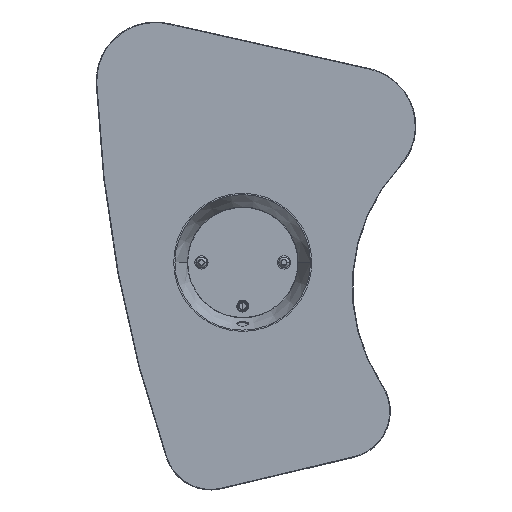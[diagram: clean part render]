
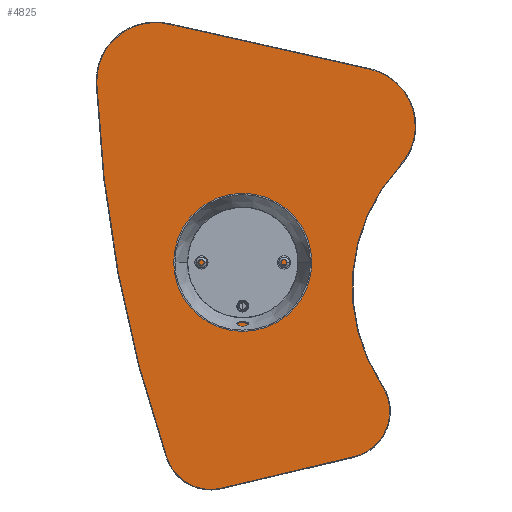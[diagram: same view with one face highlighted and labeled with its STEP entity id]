
A CAD part, top view. The second image highlights one B-rep face of the part: STEP entity #4825.
In plain terms, the highlighted planar face has unit normal (0, 0, 1).
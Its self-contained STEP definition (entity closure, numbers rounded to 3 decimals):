
#46 = EDGE_CURVE ( 'NONE', #8697, #3540, #2439, .T. ) ;
#70 = CARTESIAN_POINT ( 'NONE',  ( 132.001, 242.013, -55.476 ) ) ;
#130 = EDGE_CURVE ( 'NONE', #9373, #8697, #8022, .T. ) ;
#265 = CARTESIAN_POINT ( 'NONE',  ( -49.588, 281.478, -55.476 ) ) ;
#431 = CARTESIAN_POINT ( 'NONE',  ( -49.588, 231.978, -55.476 ) ) ;
#469 = ORIENTED_EDGE ( 'NONE', *, *, #130, .T. ) ;
#561 = CARTESIAN_POINT ( 'NONE',  ( 6.821, -112.826, -55.476 ) ) ;
#624 = PLANE ( 'NONE',  #2869 ) ;
#705 = DIRECTION ( 'NONE',  ( 0., 0., -1. ) ) ;
#761 = EDGE_CURVE ( 'NONE', #10043, #5699, #3798, .T. ) ;
#790 = DIRECTION ( 'NONE',  ( 0., 0., -1. ) ) ;
#793 = ORIENTED_EDGE ( 'NONE', *, *, #2233, .T. ) ;
#883 = CARTESIAN_POINT ( 'NONE',  ( 118.706, -86.24, -55.476 ) ) ;
#885 = DIRECTION ( 'NONE',  ( 0., 1., 0. ) ) ;
#1044 = CIRCLE ( 'NONE', #11430, 150.5 ) ;
#1132 = DIRECTION ( 'NONE',  ( 0.973, 0.231, 0. ) ) ;
#1208 = AXIS2_PLACEMENT_3D ( 'NONE', #1824, #5373, #1619 ) ;
#1503 = DIRECTION ( 'NONE',  ( 0., 1., 0. ) ) ;
#1619 = DIRECTION ( 'NONE',  ( 0., 1., 0. ) ) ;
#1691 = VERTEX_POINT ( 'NONE', #883 ) ;
#1824 = CARTESIAN_POINT ( 'NONE',  ( 16.304, 119.714, -55.476 ) ) ;
#2232 = AXIS2_PLACEMENT_3D ( 'NONE', #8710, #790, #10568 ) ;
#2233 = EDGE_CURVE ( 'NONE', #11440, #4985, #8564, .T. ) ;
#2439 = CIRCLE ( 'NONE', #5419, 49.5 ) ;
#2445 = DIRECTION ( 'NONE',  ( 0., 0., 1. ) ) ;
#2448 = CARTESIAN_POINT ( 'NONE',  ( 142.443, -25.904, -55.476 ) ) ;
#2631 = DIRECTION ( 'NONE',  ( 0., 0., 1. ) ) ;
#2692 = DIRECTION ( 'NONE',  ( 0., 1., 0. ) ) ;
#2730 = CIRCLE ( 'NONE', #3117, 49.5 ) ;
#2869 = AXIS2_PLACEMENT_3D ( 'NONE', #8536, #9465, #1503 ) ;
#2945 = LINE ( 'NONE', #9104, #4167 ) ;
#3059 = AXIS2_PLACEMENT_3D ( 'NONE', #3320, #2631, #2692 ) ;
#3117 = AXIS2_PLACEMENT_3D ( 'NONE', #10266, #7457, #7523 ) ;
#3181 = DIRECTION ( 'NONE',  ( 0., 0., 1. ) ) ;
#3233 = CARTESIAN_POINT ( 'NONE',  ( 132.001, 242.013, -55.476 ) ) ;
#3320 = CARTESIAN_POINT ( 'NONE',  ( -2.311, -74.396, -55.476 ) ) ;
#3324 = DIRECTION ( 'NONE',  ( 0., 1., 0. ) ) ;
#3387 = LINE ( 'NONE', #70, #4084 ) ;
#3445 = CARTESIAN_POINT ( 'NONE',  ( -49.588, 231.978, -55.476 ) ) ;
#3540 = VERTEX_POINT ( 'NONE', #5611 ) ;
#3564 = AXIS2_PLACEMENT_3D ( 'NONE', #7640, #3181, #9294 ) ;
#3798 = CIRCLE ( 'NONE', #3059, 39.5 ) ;
#3920 = DIRECTION ( 'NONE',  ( 0., 1., 0. ) ) ;
#4084 = VECTOR ( 'NONE', #7798, 1000. ) ;
#4167 = VECTOR ( 'NONE', #1132, 1000. ) ;
#4825 = ADVANCED_FACE ( 'NONE', ( #10451, #7540 ), #624, .F. ) ;
#4937 = EDGE_CURVE ( 'NONE', #4985, #11440, #7294, .T. ) ;
#4985 = VERTEX_POINT ( 'NONE', #9163 ) ;
#5026 = EDGE_CURVE ( 'NONE', #3540, #10043, #6771, .T. ) ;
#5291 = ORIENTED_EDGE ( 'NONE', *, *, #5026, .T. ) ;
#5373 = DIRECTION ( 'NONE',  ( 0., 0., -1. ) ) ;
#5419 = AXIS2_PLACEMENT_3D ( 'NONE', #431, #2445, #3324 ) ;
#5429 = CARTESIAN_POINT ( 'NONE',  ( -39.704, -87.123, -55.476 ) ) ;
#5611 = CARTESIAN_POINT ( 'NONE',  ( -99.044, 229.898, -55.476 ) ) ;
#5699 = VERTEX_POINT ( 'NONE', #561 ) ;
#6062 = CARTESIAN_POINT ( 'NONE',  ( 267.679, 57.56, -55.476 ) ) ;
#6310 = CARTESIAN_POINT ( 'NONE',  ( 157.436, 160.014, -55.476 ) ) ;
#6527 = CARTESIAN_POINT ( 'NONE',  ( 1031.457, 277.441, -55.476 ) ) ;
#6573 = EDGE_CURVE ( 'NONE', #7748, #9373, #3387, .T. ) ;
#6771 = CIRCLE ( 'NONE', #10852, 1131.5 ) ;
#7083 = CIRCLE ( 'NONE', #3564, 39.5 ) ;
#7204 = EDGE_CURVE ( 'NONE', #1691, #10922, #7083, .T. ) ;
#7281 = ORIENTED_EDGE ( 'NONE', *, *, #8066, .T. ) ;
#7294 = CIRCLE ( 'NONE', #1208, 2.5 ) ;
#7457 = DIRECTION ( 'NONE',  ( 0., 0., 1. ) ) ;
#7523 = DIRECTION ( 'NONE',  ( 0., 1., 0. ) ) ;
#7540 = FACE_BOUND ( 'NONE', #9778, .T. ) ;
#7640 = CARTESIAN_POINT ( 'NONE',  ( 109.574, -47.81, -55.476 ) ) ;
#7748 = VERTEX_POINT ( 'NONE', #3233 ) ;
#7798 = DIRECTION ( 'NONE',  ( -0.976, 0.219, 0. ) ) ;
#7823 = ORIENTED_EDGE ( 'NONE', *, *, #9288, .T. ) ;
#7881 = ORIENTED_EDGE ( 'NONE', *, *, #46, .T. ) ;
#8022 = CIRCLE ( 'NONE', #10445, 49.5 ) ;
#8066 = EDGE_CURVE ( 'NONE', #5699, #1691, #2945, .T. ) ;
#8090 = DIRECTION ( 'NONE',  ( 0., 0., 1. ) ) ;
#8186 = ORIENTED_EDGE ( 'NONE', *, *, #761, .T. ) ;
#8392 = CARTESIAN_POINT ( 'NONE',  ( 16.304, 122.214, -55.476 ) ) ;
#8536 = CARTESIAN_POINT ( 'NONE',  ( 121.177, 193.711, -55.476 ) ) ;
#8564 = CIRCLE ( 'NONE', #2232, 2.5 ) ;
#8671 = VERTEX_POINT ( 'NONE', #6310 ) ;
#8697 = VERTEX_POINT ( 'NONE', #265 ) ;
#8710 = CARTESIAN_POINT ( 'NONE',  ( 16.304, 119.714, -55.476 ) ) ;
#8738 = DIRECTION ( 'NONE',  ( 0., 1., 0. ) ) ;
#9104 = CARTESIAN_POINT ( 'NONE',  ( 184.011, -70.723, -55.476 ) ) ;
#9163 = CARTESIAN_POINT ( 'NONE',  ( 16.304, 117.214, -55.476 ) ) ;
#9288 = EDGE_CURVE ( 'NONE', #8671, #7748, #2730, .T. ) ;
#9294 = DIRECTION ( 'NONE',  ( 0., 1., 0. ) ) ;
#9373 = VERTEX_POINT ( 'NONE', #9627 ) ;
#9449 = ORIENTED_EDGE ( 'NONE', *, *, #6573, .T. ) ;
#9465 = DIRECTION ( 'NONE',  ( 0., 0., -1. ) ) ;
#9627 = CARTESIAN_POINT ( 'NONE',  ( -38.764, 280.28, -55.476 ) ) ;
#9778 = EDGE_LOOP ( 'NONE', ( #9880, #793 ) ) ;
#9880 = ORIENTED_EDGE ( 'NONE', *, *, #4937, .T. ) ;
#10043 = VERTEX_POINT ( 'NONE', #5429 ) ;
#10152 = ORIENTED_EDGE ( 'NONE', *, *, #7204, .T. ) ;
#10193 = DIRECTION ( 'NONE',  ( 0., 0., 1. ) ) ;
#10266 = CARTESIAN_POINT ( 'NONE',  ( 121.177, 193.711, -55.476 ) ) ;
#10445 = AXIS2_PLACEMENT_3D ( 'NONE', #3445, #8090, #885 ) ;
#10451 = FACE_OUTER_BOUND ( 'NONE', #10750, .T. ) ;
#10568 = DIRECTION ( 'NONE',  ( 0., 1., 0. ) ) ;
#10750 = EDGE_LOOP ( 'NONE', ( #9449, #469, #7881, #5291, #8186, #7281, #10152, #11486, #7823 ) ) ;
#10852 = AXIS2_PLACEMENT_3D ( 'NONE', #6527, #10193, #3920 ) ;
#10922 = VERTEX_POINT ( 'NONE', #2448 ) ;
#11181 = EDGE_CURVE ( 'NONE', #10922, #8671, #1044, .T. ) ;
#11430 = AXIS2_PLACEMENT_3D ( 'NONE', #6062, #705, #8738 ) ;
#11440 = VERTEX_POINT ( 'NONE', #8392 ) ;
#11486 = ORIENTED_EDGE ( 'NONE', *, *, #11181, .T. ) ;
